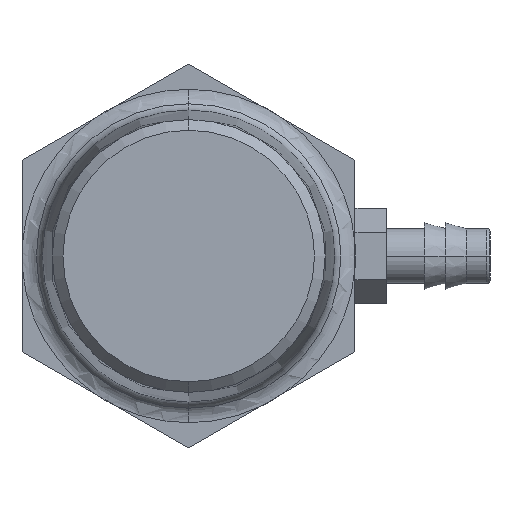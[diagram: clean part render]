
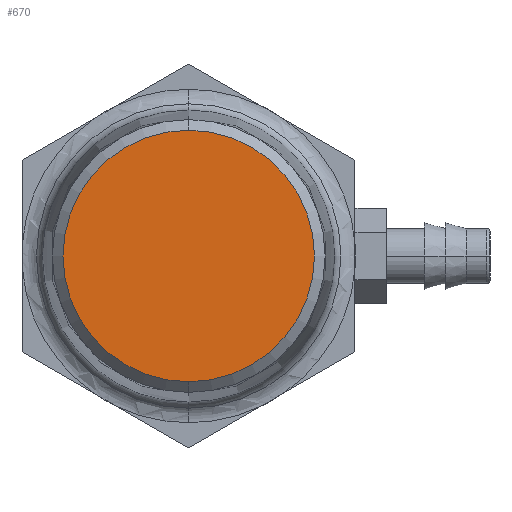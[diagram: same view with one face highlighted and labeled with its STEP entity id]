
A CAD part, left-side view. The second image highlights one B-rep face of the part: STEP entity #670.
In plain terms, the highlighted planar face has unit normal (-1, 0, 0).
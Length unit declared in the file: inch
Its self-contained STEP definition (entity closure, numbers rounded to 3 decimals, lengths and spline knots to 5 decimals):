
#269=CARTESIAN_POINT('',(-3.495,0.,0.));
#270=DIRECTION('',(-1.,0.,0.));
#271=DIRECTION('',(0.,0.,1.));
#272=AXIS2_PLACEMENT_3D('',#269,#270,#271);
#274=CARTESIAN_POINT('',(-3.495,0.,0.));
#275=DIRECTION('',(-1.,0.,0.));
#276=DIRECTION('',(0.,0.,-1.));
#277=AXIS2_PLACEMENT_3D('',#274,#275,#276);
#530=CARTESIAN_POINT('',(-3.495,0.,-0.37814));
#531=VERTEX_POINT('',#530);
#532=CARTESIAN_POINT('',(-3.495,0.,0.37814));
#533=VERTEX_POINT('',#532);
#660=CARTESIAN_POINT('',(-3.495,0.,0.18907));
#661=DIRECTION('',(-1.,0.,0.));
#662=DIRECTION('',(0.,0.,1.));
#663=AXIS2_PLACEMENT_3D('',#660,#661,#662);
#664=PLANE('',#663);
#665=ORIENTED_EDGE('',*,*,#650,.F.);
#667=ORIENTED_EDGE('',*,*,#666,.F.);
#668=EDGE_LOOP('',(#665,#667));
#669=FACE_OUTER_BOUND('',#668,.F.);
#273=CIRCLE('',#272,0.37814);
#278=CIRCLE('',#277,0.37814);
#650=EDGE_CURVE('',#533,#531,#273,.T.);
#666=EDGE_CURVE('',#531,#533,#278,.T.);
#670=ADVANCED_FACE('',(#669),#664,.T.);
